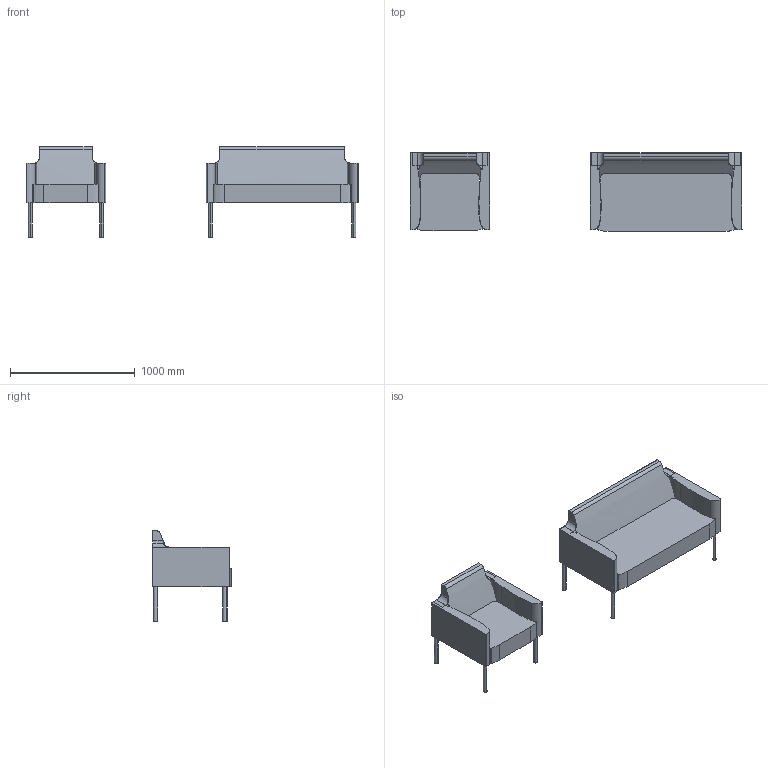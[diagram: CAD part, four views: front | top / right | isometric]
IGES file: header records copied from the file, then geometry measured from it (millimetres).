
Start section: Data from Parasolid IGES Translator,  Copyright (c) 2006 UGS Corp. All R ights Reserved.
Global section: file name: s110 jay-jay 3d.igs; native system:  By UGS Corp.; preprocessor: XPlus GENERIC/IGES 3.0; author: Noname; organization: Noname; date: 20130605.103056; units: metre
Bounding box: 2666.22 x 631.4 x 724.3 mm (x, y, z)
Volume: 280809522.9 mm3; surface area: 6917695.1 mm2
Topology: 16 solids, 16 shells, 150 faces, 354 edges, 236 vertices
Faces by surface type: plane 66, bspline 44, cylinder 40
